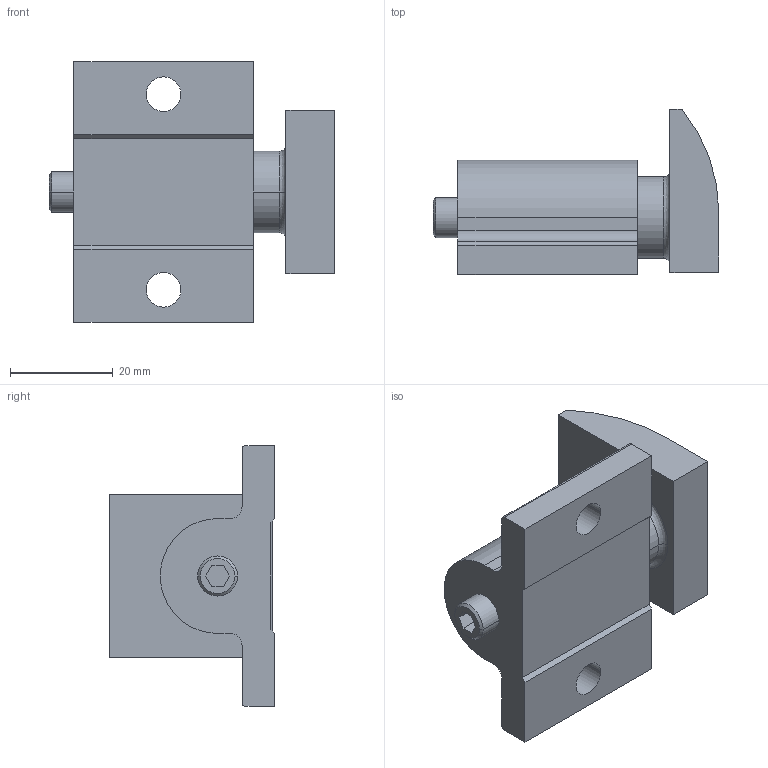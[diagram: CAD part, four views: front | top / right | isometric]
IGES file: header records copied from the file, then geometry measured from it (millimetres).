
Start section:  PTC IGES file: ss92b-3d.igs
Global section: file name: ss92b-3d.igs; native system: Pro/ENGINEER by Parametric Technology Corporation; preprocessor: 2002350; author: chant; organization: Unknown; date: 061026.145042; units: inch
Bounding box: 55.63 x 32.18 x 50.8 mm (x, y, z)
Surface area: 11197.7 mm2 (no closed solid volume)
Topology: 0 solids, 0 shells, 56 faces, 388 edges, 489 vertices
Faces by surface type: bspline 30, revolution 26
